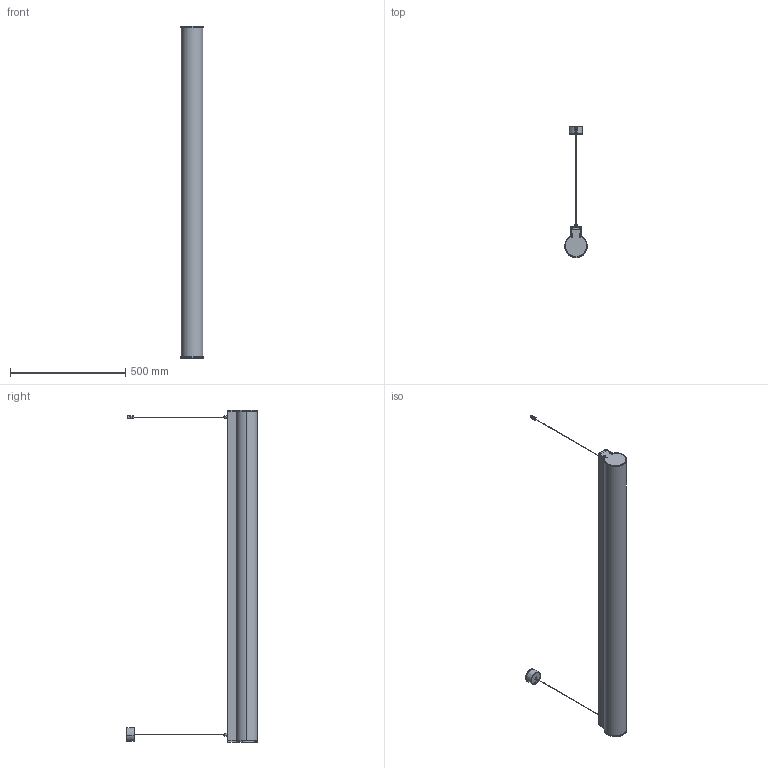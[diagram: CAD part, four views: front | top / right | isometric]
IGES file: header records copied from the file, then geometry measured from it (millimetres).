
Start section: SolidWorks IGES file using analytic representation for surfaces
Global section: file name: C:\Users\JoãoSantos\Desktop\02_3D.2D\01_2020\02_Linear\01_O975\02_Suspensa\O975_SUSP_1440.IGS; native system: SolidWorks 2020; preprocessor: SolidWorks 2020; author: JoãoSantos; date: 201021.110620; units: millimetre
Bounding box: 97.5 x 570.21 x 1440 mm (x, y, z)
Surface area: 1247197 mm2 (no closed solid volume)
Topology: 0 solids, 0 shells, 611 faces, 7331 edges, 7315 vertices
Faces by surface type: bspline 323, revolution 288
